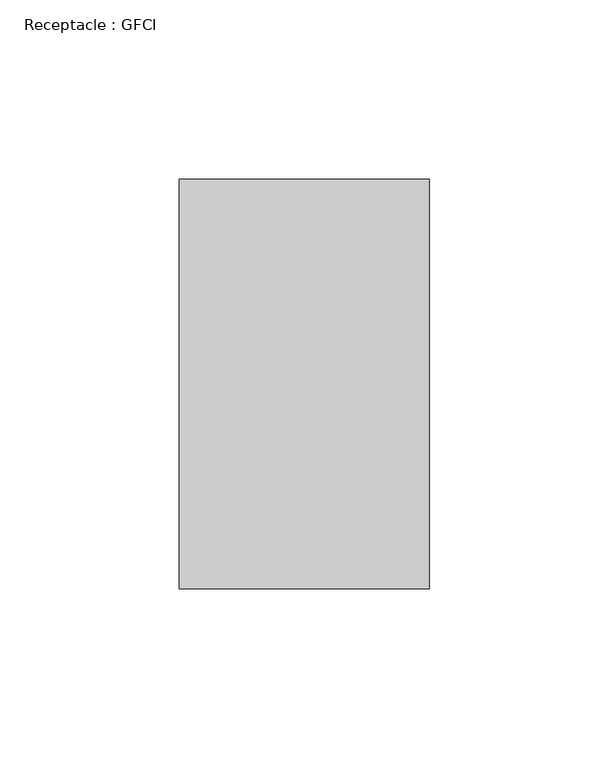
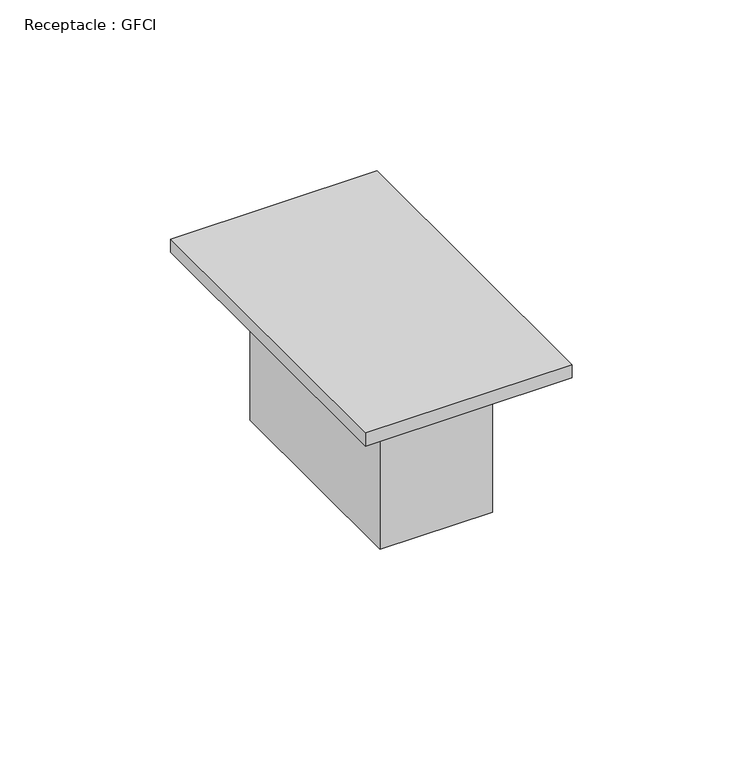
"""IFC4 building model written with IfcOpenShell, lengths in millimetres: proxy geometry, Receptacle : GFCI."""

import ifcopenshell
import ifcopenshell.guid

model = None  # the IFC model being written
_history = None  # IfcOwnerHistory: only IFC2X3 demands one
_inside = {}  # id of a spatial element -> (the spatial element, [elements in it])
_under = {}  # id of a project, library or spatial element -> (it, [spatial elements below it])
_declared = {}  # id of a project -> (the project, [libraries it declares])
_typed = {}  # id of a type object -> (the type object, [elements of that type])
_made_of = {}  # id of a material, layer set ... -> (it, [elements and type objects made of it])


def new_model(schema):
    """Start an empty IFC model of exactly this schema.

    Asked for "IFC4X3", IfcOpenShell would pick the latest addendum, in which some entities
    have other attributes; the version numbers below select the first issue.
    IFC2X3 requires an IfcOwnerHistory on every rooted entity: one is made here for all.
    """
    global model, _history
    if schema == "IFC4X3":
        model = ifcopenshell.file(schema_version=(4, 3, 0, 0))
    else:
        model = ifcopenshell.file(schema=schema)
    _inside.clear()
    _under.clear()
    _declared.clear()
    _typed.clear()
    _made_of.clear()
    _history = None
    if model.schema == "IFC2X3":
        org = make("IfcOrganization", Name="unknown")
        user = make(
            "IfcPersonAndOrganization",
            ThePerson=make("IfcPerson", FamilyName="unknown"),
            TheOrganization=org,
        )
        app = make(
            "IfcApplication",
            ApplicationDeveloper=org,
            Version="unknown",
            ApplicationFullName="unknown",
            ApplicationIdentifier="unknown",
        )
        _history = make(
            "IfcOwnerHistory",
            OwningUser=user,
            OwningApplication=app,
            ChangeAction="ADDED",
            CreationDate=0,
        )
    return model


def make(cls, **values):
    """One entity of the class cls with the attributes given. An attribute that is None is left unset."""
    return model.create_entity(
        cls, **{name: value for name, value in values.items() if value is not None}
    )


def rooted(cls, **values):
    """An entity with a GlobalId (a new one), such as an element, a storey or a relation."""
    return make(cls, GlobalId=ifcopenshell.guid.new(), OwnerHistory=_history, **values)


def si_unit(unit_type, name, prefix=None):
    """IfcSIUnit, for example si_unit("LENGTHUNIT", "METRE", prefix="MILLI")."""
    return make("IfcSIUnit", UnitType=unit_type, Prefix=prefix, Name=name)


def assignment(units):
    """IfcUnitAssignment: the units of a project."""
    return None if units is None else make("IfcUnitAssignment", Units=units)


def point(xyz):
    """IfcCartesianPoint."""
    return None if xyz is None else make("IfcCartesianPoint", Coordinates=xyz)


def direction(xyz):
    """IfcDirection."""
    return None if xyz is None else make("IfcDirection", DirectionRatios=xyz)


def frame(location, z_axis=None, x_axis=None):
    """IfcAxis2Placement3D, a coordinate frame: its origin and axes. An axis left out is left unset."""
    return make(
        "IfcAxis2Placement3D",
        Location=point(location),
        Axis=direction(z_axis),
        RefDirection=direction(x_axis),
    )


def origin():
    """The frame at (0, 0, 0) with its axes left unset."""
    return frame((0.0, 0.0, 0.0))


def origin_with_axes():
    """The frame at (0, 0, 0) with the z axis (0, 0, 1) and the x axis (1, 0, 0) written out."""
    return frame((0.0, 0.0, 0.0), z_axis=(0.0, 0.0, 1.0), x_axis=(1.0, 0.0, 0.0))


def place(relative_to, where):
    """IfcLocalPlacement: puts the frame where relative to a parent placement (None: the world)."""
    return make(
        "IfcLocalPlacement", PlacementRelTo=relative_to, RelativePlacement=where
    )


def context(
    kind, dimensions, precision=None, world=None, true_north=None, identifier=None
):
    """IfcGeometricRepresentationContext, for example the 3D "Model" context."""
    return make(
        "IfcGeometricRepresentationContext",
        ContextIdentifier=identifier,
        ContextType=kind,
        CoordinateSpaceDimension=dimensions,
        Precision=precision,
        WorldCoordinateSystem=world,
        TrueNorth=true_north,
    )


def project(units=None, contexts=None):
    """IfcProject with its units and contexts."""
    return rooted(
        "IfcProject",
        Name="project",
        RepresentationContexts=contexts,
        UnitsInContext=assignment(units),
    )


def spatial(cls, under=None, at=None, **own):
    """A site, building, storey or space (cls), placed at a placement, below another one or the project."""
    s = rooted(cls, ObjectPlacement=at, **own)
    if under is not None:
        _under.setdefault(under.id(), (under, []))[1].append(s)
    return s


def polyline(points):
    """IfcPolyline through the points."""
    return make("IfcPolyline", Points=[point(p) for p in points])


def outline(outer, holes=None, kind="AREA"):
    """IfcArbitraryClosedProfileDef: a profile drawn as a closed curve; with holes, ...WithVoids."""
    if holes is None:
        return make("IfcArbitraryClosedProfileDef", ProfileType=kind, OuterCurve=outer)
    return make(
        "IfcArbitraryProfileDefWithVoids",
        ProfileType=kind,
        OuterCurve=outer,
        InnerCurves=holes,
    )


def extrude(swept, where, along, depth):
    """IfcExtrudedAreaSolid: the profile swept, set in the frame where, extruded along a direction by depth."""
    return make(
        "IfcExtrudedAreaSolid",
        SweptArea=swept,
        Position=where,
        ExtrudedDirection=direction(along),
        Depth=depth,
    )


def shape(context_of_items, identifier, shape_type, items):
    """IfcShapeRepresentation: the items that make up one representation, for example the "Body"."""
    return make(
        "IfcShapeRepresentation",
        ContextOfItems=context_of_items,
        RepresentationIdentifier=identifier,
        RepresentationType=shape_type,
        Items=items,
    )


def source(mapping_origin, context_of_items, identifier, shape_type, items):
    """IfcRepresentationMap: a shape defined once, which mapped items show again and again."""
    return make(
        "IfcRepresentationMap",
        MappingOrigin=mapping_origin,
        MappedRepresentation=shape(context_of_items, identifier, shape_type, items),
    )


def transform(
    local_origin,
    x_axis=None,
    y_axis=None,
    z_axis=None,
    scale=None,
    scale2=None,
    scale3=None,
    uniform=True,
):
    """IfcCartesianTransformationOperator3D, or its non-uniform kind. x_axis, y_axis, z_axis: its Axis1, 2, 3."""
    if uniform:
        return make(
            "IfcCartesianTransformationOperator3D",
            Axis1=direction(x_axis),
            Axis2=direction(y_axis),
            LocalOrigin=point(local_origin),
            Scale=scale,
            Axis3=direction(z_axis),
        )
    return make(
        "IfcCartesianTransformationOperator3DnonUniform",
        Axis1=direction(x_axis),
        Axis2=direction(y_axis),
        LocalOrigin=point(local_origin),
        Scale=scale,
        Axis3=direction(z_axis),
        Scale2=scale2,
        Scale3=scale3,
    )


def mapped(mapping_source, mapping_target):
    """IfcMappedItem: shows the shape of a source again, moved by a transform."""
    return make(
        "IfcMappedItem", MappingSource=mapping_source, MappingTarget=mapping_target
    )


def made_of(thing, what):
    """Note that an element or type object is made of a material, layer set ...; save() writes the relation."""
    if what is not None:
        _made_of.setdefault(what.id(), (what, []))[1].append(thing)
    return thing


def element(
    cls,
    number,
    at=None,
    inside=None,
    cuts=None,
    type_object=None,
    material=None,
    context=None,
    identifier="Body",
    shape_type=None,
    held_by="IfcProductDefinitionShape",
    body=None,
    shapes=None,
    **own,
):
    """One element of the class cls, such as IfcWall. Its Tag is "e" and its number.

    at: its placement. inside: the storey or other place that contains it. cuts: it is an
    opening in that element (IfcRelVoidsElement). A single representation is given by context,
    identifier, shape_type and body (its items); several are given by shapes. held_by: the class
    of the entity that holds the representations. save() writes the other relations.
    """
    e = rooted(cls, Tag="e%d" % number, ObjectPlacement=at, **own)
    if body is not None:
        shapes = [shape(context, identifier, shape_type, body)]
    if shapes is not None:
        e.Representation = make(held_by, Representations=shapes)
    if inside is not None:
        _inside.setdefault(inside.id(), (inside, []))[1].append(e)
    if cuts is not None:
        rooted(
            "IfcRelVoidsElement", RelatingBuildingElement=cuts, RelatedOpeningElement=e
        )
    if type_object is not None:
        _typed.setdefault(type_object.id(), (type_object, []))[1].append(e)
    return made_of(e, material)


def aggregate(whole, parts):
    """IfcRelAggregates: a whole, such as a stair, and the parts it consists of."""
    return rooted("IfcRelAggregates", RelatingObject=whole, RelatedObjects=parts)


def save(model, path):
    """Write the relations noted so far, then the file.

    IfcRelAggregates (storeys below a building ...), IfcRelContainedInSpatialStructure (elements
    in a storey), IfcRelDefinesByType, IfcRelAssociatesMaterial and IfcRelDeclares: one each for
    every whole, place, type object, material and project.
    """
    for whole, parts in _under.values():
        aggregate(whole, parts)
    for where, things in _inside.values():
        rooted(
            "IfcRelContainedInSpatialStructure",
            RelatedElements=things,
            RelatingStructure=where,
        )
    for kind, things in _typed.values():
        rooted("IfcRelDefinesByType", RelatedObjects=things, RelatingType=kind)
    for what, things in _made_of.values():
        rooted("IfcRelAssociatesMaterial", RelatedObjects=things, RelatingMaterial=what)
    for by, libraries in _declared.values():
        rooted("IfcRelDeclares", RelatingContext=by, RelatedDefinitions=libraries)
    model.write(path)


def receptacle_gfci_367a9a66(model_context):
    return source(origin(), model_context, "Body", "SweptSolid", [
        extrude(outline(polyline([(34.925, 57.15), (34.925, -57.15), (-34.925, -57.15), (-34.925, 57.15), (34.925, 57.15)])), origin_with_axes(), (0.0, 0.0, 1.0), 4.7625),
        extrude(outline(polyline([(19.05, 38.1), (19.05, -38.1), (-19.05, -38.1), (-19.05, 38.1), (19.05, 38.1)])), frame((0.0, 0.0, -53.975), z_axis=(0.0, 0.0, 1.0), x_axis=(1.0, 0.0, 0.0)), (0.0, 0.0, 1.0), 53.975),
    ])


if __name__ == "__main__":
    model = new_model("IFC4")
    model_context = context("Model", 3, world=origin())
    ifc_project = project(units=[si_unit("LENGTHUNIT", "METRE", prefix="MILLI")], contexts=[model_context])
    site = spatial("IfcSite", under=ifc_project)
    building = spatial("IfcBuilding", under=site)
    placement = place(None, origin())
    receptacle_gfci_shape = receptacle_gfci_367a9a66(model_context)
    element("IfcBuildingElementProxy", 1, Name="Receptacle : GFCI", ObjectType="Receptacle : GFCI", at=placement, inside=building, context=model_context, shape_type="MappedRepresentation", body=[
        mapped(receptacle_gfci_shape, transform((0.0, 0.0, 0.0), x_axis=(1.0, 0.0, 0.0), y_axis=(0.0, 1.0, 0.0), z_axis=(0.0, 0.0, 1.0))),
    ])
    save(model, "model.ifc")
